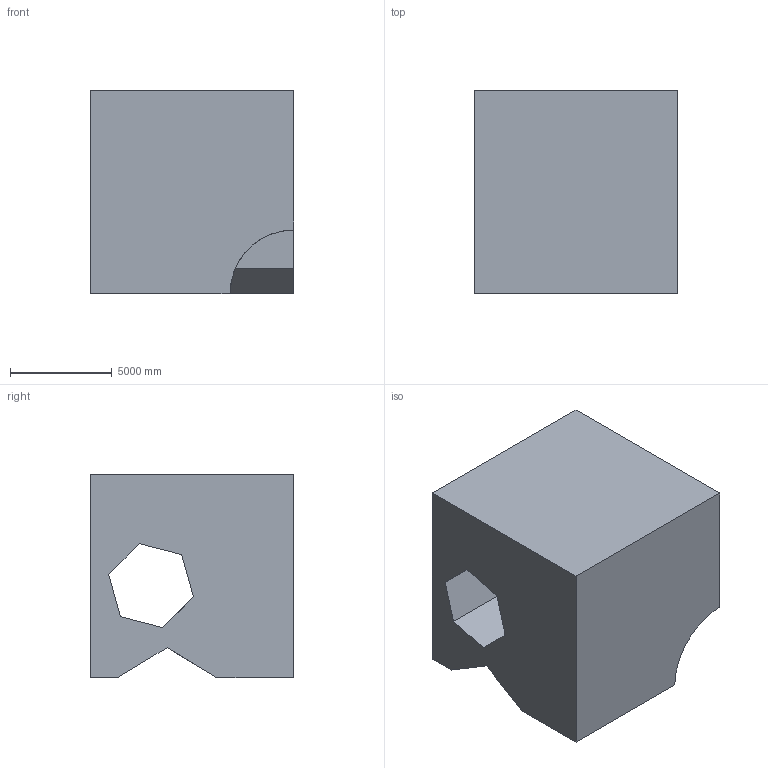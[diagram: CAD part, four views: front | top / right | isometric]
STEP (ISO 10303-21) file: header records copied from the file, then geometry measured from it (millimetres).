
FILE_DESCRIPTION (( 'STEP AP203' ), '1' );
FILE_NAME ('65.STEP', '2022-08-31T11:22:07', ( 'user' ), ( '' ), 'SwSTEP 2.0', 'SolidWorks 2021', '' );
FILE_SCHEMA (( 'CONFIG_CONTROL_DESIGN' ));
Length unit declared in the file: centimetre
Products named in the file (1): 65
Bounding box: 10000 x 10000 x 10000 mm (x, y, z)
Volume: 757147187276.3 mm3; surface area: 750775573 mm2
Topology: 1 solids, 1 shells, 22 faces, 63 edges, 42 vertices
Faces by surface type: plane 21, cylinder 1
Entity records: 790 total; most frequent: CARTESIAN_POINT 134, ORIENTED_EDGE 126, DIRECTION 109, EDGE_CURVE 63, VECTOR 59, LINE 59, VERTEX_POINT 42, AXIS2_PLACEMENT_3D 25
